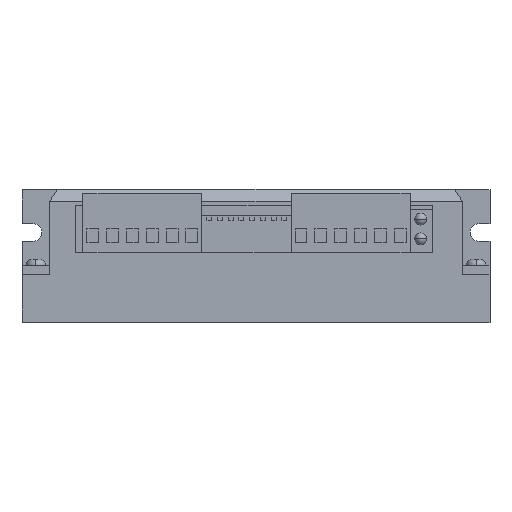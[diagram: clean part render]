
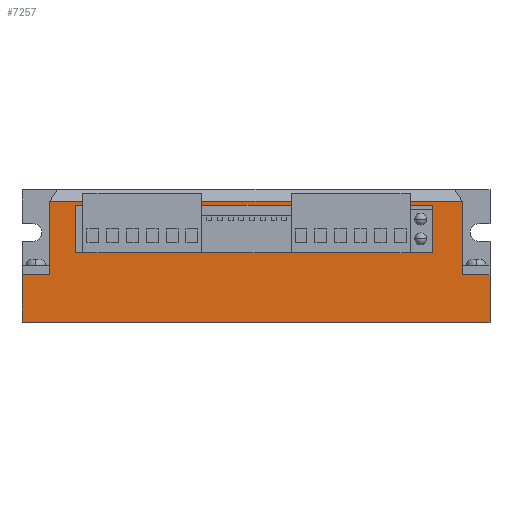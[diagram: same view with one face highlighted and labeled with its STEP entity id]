
A CAD part, top view. The second image highlights one B-rep face of the part: STEP entity #7257.
In plain terms, the highlighted planar face has unit normal (0, 0, 1).
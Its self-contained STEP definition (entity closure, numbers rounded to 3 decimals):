
#16 = VERTEX_POINT ( 'NONE', #6161 ) ;
#123 = EDGE_CURVE ( 'NONE', #292, #8070, #8921, .T. ) ;
#190 = EDGE_CURVE ( 'NONE', #608, #765, #1116, .T. ) ;
#236 = CARTESIAN_POINT ( 'NONE',  ( 97.85, 17.5, 0. ) ) ;
#292 = VERTEX_POINT ( 'NONE', #8508 ) ;
#396 = LINE ( 'NONE', #456, #7400 ) ;
#456 = CARTESIAN_POINT ( 'NONE',  ( 111., 33.5, 0. ) ) ;
#498 = EDGE_CURVE ( 'NONE', #2774, #5302, #9191, .T. ) ;
#513 = DIRECTION ( 'NONE',  ( 0., 0., -1. ) ) ;
#608 = VERTEX_POINT ( 'NONE', #4127 ) ;
#708 = ORIENTED_EDGE ( 'NONE', *, *, #10944, .F. ) ;
#765 = VERTEX_POINT ( 'NONE', #6991 ) ;
#865 = CARTESIAN_POINT ( 'NONE',  ( 0., 0., 0. ) ) ;
#1003 = VERTEX_POINT ( 'NONE', #6787 ) ;
#1054 = VECTOR ( 'NONE', #3593, 1000. ) ;
#1061 = LINE ( 'NONE', #8239, #5922 ) ;
#1116 = LINE ( 'NONE', #4569, #9134 ) ;
#1158 = VECTOR ( 'NONE', #4386, 1000. ) ;
#1443 = EDGE_CURVE ( 'NONE', #11250, #3250, #3079, .T. ) ;
#1483 = LINE ( 'NONE', #6888, #2408 ) ;
#1824 = VECTOR ( 'NONE', #5610, 1000. ) ;
#2207 = DIRECTION ( 'NONE',  ( -1., 0., 0. ) ) ;
#2260 = CARTESIAN_POINT ( 'NONE',  ( 103.5, 29.5, 0. ) ) ;
#2330 = PLANE ( 'NONE',  #5507 ) ;
#2408 = VECTOR ( 'NONE', #6831, 1000. ) ;
#2654 = EDGE_CURVE ( 'NONE', #1003, #292, #396, .T. ) ;
#2774 = VERTEX_POINT ( 'NONE', #236 ) ;
#2817 = LINE ( 'NONE', #9973, #7818 ) ;
#2829 = ORIENTED_EDGE ( 'NONE', *, *, #5470, .F. ) ;
#2902 = CARTESIAN_POINT ( 'NONE',  ( 13.5, 17.5, 0. ) ) ;
#2932 = CARTESIAN_POINT ( 'NONE',  ( -9., 30.5, 0. ) ) ;
#2957 = CARTESIAN_POINT ( 'NONE',  ( 13.5, 29.5, 0. ) ) ;
#3079 = LINE ( 'NONE', #2260, #4974 ) ;
#3174 = CARTESIAN_POINT ( 'NONE',  ( 67.85, 17.5, 0. ) ) ;
#3177 = ORIENTED_EDGE ( 'NONE', *, *, #123, .F. ) ;
#3195 = VERTEX_POINT ( 'NONE', #4968 ) ;
#3250 = VERTEX_POINT ( 'NONE', #9652 ) ;
#3309 = ORIENTED_EDGE ( 'NONE', *, *, #5681, .T. ) ;
#3322 = FACE_BOUND ( 'NONE', #3435, .T. ) ;
#3435 = EDGE_LOOP ( 'NONE', ( #708, #9221, #5604, #5014, #4826, #10693, #2829, #9152 ) ) ;
#3460 = CARTESIAN_POINT ( 'NONE',  ( 0., 17.5, 0. ) ) ;
#3487 = LINE ( 'NONE', #5307, #5580 ) ;
#3524 = LINE ( 'NONE', #3460, #11186 ) ;
#3593 = DIRECTION ( 'NONE',  ( 0., -1., 0. ) ) ;
#3724 = CARTESIAN_POINT ( 'NONE',  ( 13.5, 17.5, 0. ) ) ;
#3796 = DIRECTION ( 'NONE',  ( 0., 1., 0. ) ) ;
#4114 = CARTESIAN_POINT ( 'NONE',  ( 45.35, 17.5, 0. ) ) ;
#4127 = CARTESIAN_POINT ( 'NONE',  ( 0., 12., 0. ) ) ;
#4296 = EDGE_CURVE ( 'NONE', #608, #6436, #2817, .T. ) ;
#4386 = DIRECTION ( 'NONE',  ( 1., 0., 0. ) ) ;
#4552 = EDGE_CURVE ( 'NONE', #9675, #11455, #3487, .T. ) ;
#4569 = CARTESIAN_POINT ( 'NONE',  ( 0., 33.5, 0. ) ) ;
#4606 = DIRECTION ( 'NONE',  ( 1., 0., 0. ) ) ;
#4614 = CARTESIAN_POINT ( 'NONE',  ( 103.5, 17.5, 0. ) ) ;
#4784 = LINE ( 'NONE', #4614, #10374 ) ;
#4826 = ORIENTED_EDGE ( 'NONE', *, *, #11257, .F. ) ;
#4968 = CARTESIAN_POINT ( 'NONE',  ( 13.5, 17.5, 0. ) ) ;
#4974 = VECTOR ( 'NONE', #2207, 1000. ) ;
#5014 = ORIENTED_EDGE ( 'NONE', *, *, #498, .F. ) ;
#5167 = DIRECTION ( 'NONE',  ( 1., 0., 0. ) ) ;
#5212 = ORIENTED_EDGE ( 'NONE', *, *, #6736, .F. ) ;
#5302 = VERTEX_POINT ( 'NONE', #7042 ) ;
#5307 = CARTESIAN_POINT ( 'NONE',  ( 13.5, 17.5, 0. ) ) ;
#5470 = EDGE_CURVE ( 'NONE', #10231, #9675, #1061, .T. ) ;
#5507 = AXIS2_PLACEMENT_3D ( 'NONE', #11366, #513, #5913 ) ;
#5580 = VECTOR ( 'NONE', #10005, 1000. ) ;
#5604 = ORIENTED_EDGE ( 'NONE', *, *, #7500, .F. ) ;
#5610 = DIRECTION ( 'NONE',  ( 1., 0., 0. ) ) ;
#5681 = EDGE_CURVE ( 'NONE', #765, #11114, #8977, .T. ) ;
#5687 = DIRECTION ( 'NONE',  ( 0., -1., 0. ) ) ;
#5735 = EDGE_LOOP ( 'NONE', ( #7328, #5212, #10203, #11396, #9280, #3309, #10017, #3177 ) ) ;
#5913 = DIRECTION ( 'NONE',  ( -1., 0., 0. ) ) ;
#5922 = VECTOR ( 'NONE', #10093, 1000. ) ;
#6039 = CARTESIAN_POINT ( 'NONE',  ( 118., 12., 0. ) ) ;
#6161 = CARTESIAN_POINT ( 'NONE',  ( 7., 30.5, 0. ) ) ;
#6254 = VECTOR ( 'NONE', #3796, 1000. ) ;
#6409 = DIRECTION ( 'NONE',  ( 1., 0., 0. ) ) ;
#6436 = VERTEX_POINT ( 'NONE', #10506 ) ;
#6452 = LINE ( 'NONE', #9094, #6254 ) ;
#6595 = CARTESIAN_POINT ( 'NONE',  ( 118., 0., 0. ) ) ;
#6691 = VECTOR ( 'NONE', #10027, 1000. ) ;
#6736 = EDGE_CURVE ( 'NONE', #16, #1003, #9218, .T. ) ;
#6787 = CARTESIAN_POINT ( 'NONE',  ( 111., 30.5, 0. ) ) ;
#6831 = DIRECTION ( 'NONE',  ( 0., -1., 0. ) ) ;
#6888 = CARTESIAN_POINT ( 'NONE',  ( 118., 33.5, 0. ) ) ;
#6991 = CARTESIAN_POINT ( 'NONE',  ( 0., 0., 0. ) ) ;
#7042 = CARTESIAN_POINT ( 'NONE',  ( 103.5, 17.5, 0. ) ) ;
#7100 = EDGE_CURVE ( 'NONE', #6436, #16, #6452, .T. ) ;
#7257 = ADVANCED_FACE ( 'NONE', ( #3322, #9599 ), #2330, .F. ) ;
#7328 = ORIENTED_EDGE ( 'NONE', *, *, #2654, .F. ) ;
#7400 = VECTOR ( 'NONE', #11080, 1000. ) ;
#7429 = CARTESIAN_POINT ( 'NONE',  ( 15.35, 17.5, 0. ) ) ;
#7500 = EDGE_CURVE ( 'NONE', #5302, #11250, #4784, .T. ) ;
#7818 = VECTOR ( 'NONE', #6409, 1000. ) ;
#8070 = VERTEX_POINT ( 'NONE', #6039 ) ;
#8239 = CARTESIAN_POINT ( 'NONE',  ( 13.5, 17.5, 0. ) ) ;
#8381 = DIRECTION ( 'NONE',  ( 0., 1., 0. ) ) ;
#8508 = CARTESIAN_POINT ( 'NONE',  ( 111., 12., 0. ) ) ;
#8921 = LINE ( 'NONE', #10859, #6691 ) ;
#8977 = LINE ( 'NONE', #865, #1158 ) ;
#9094 = CARTESIAN_POINT ( 'NONE',  ( 7., 33.5, 0. ) ) ;
#9134 = VECTOR ( 'NONE', #5687, 1000. ) ;
#9152 = ORIENTED_EDGE ( 'NONE', *, *, #10198, .F. ) ;
#9191 = LINE ( 'NONE', #2902, #10934 ) ;
#9218 = LINE ( 'NONE', #2932, #10929 ) ;
#9221 = ORIENTED_EDGE ( 'NONE', *, *, #1443, .F. ) ;
#9240 = LINE ( 'NONE', #3724, #1824 ) ;
#9273 = EDGE_CURVE ( 'NONE', #8070, #11114, #1483, .T. ) ;
#9280 = ORIENTED_EDGE ( 'NONE', *, *, #190, .T. ) ;
#9599 = FACE_OUTER_BOUND ( 'NONE', #5735, .T. ) ;
#9652 = CARTESIAN_POINT ( 'NONE',  ( 13.5, 29.5, 0. ) ) ;
#9675 = VERTEX_POINT ( 'NONE', #4114 ) ;
#9973 = CARTESIAN_POINT ( 'NONE',  ( 0., 12., 0. ) ) ;
#10005 = DIRECTION ( 'NONE',  ( 1., 0., 0. ) ) ;
#10017 = ORIENTED_EDGE ( 'NONE', *, *, #9273, .F. ) ;
#10027 = DIRECTION ( 'NONE',  ( 1., 0., 0. ) ) ;
#10093 = DIRECTION ( 'NONE',  ( 1., 0., 0. ) ) ;
#10198 = EDGE_CURVE ( 'NONE', #3195, #10231, #9240, .T. ) ;
#10203 = ORIENTED_EDGE ( 'NONE', *, *, #7100, .F. ) ;
#10231 = VERTEX_POINT ( 'NONE', #7429 ) ;
#10374 = VECTOR ( 'NONE', #8381, 1000. ) ;
#10506 = CARTESIAN_POINT ( 'NONE',  ( 7., 12., 0. ) ) ;
#10563 = CARTESIAN_POINT ( 'NONE',  ( 103.5, 29.5, 0. ) ) ;
#10693 = ORIENTED_EDGE ( 'NONE', *, *, #4552, .F. ) ;
#10823 = LINE ( 'NONE', #2957, #1054 ) ;
#10859 = CARTESIAN_POINT ( 'NONE',  ( 118., 12., 0. ) ) ;
#10929 = VECTOR ( 'NONE', #10977, 1000. ) ;
#10934 = VECTOR ( 'NONE', #4606, 1000. ) ;
#10944 = EDGE_CURVE ( 'NONE', #3250, #3195, #10823, .T. ) ;
#10977 = DIRECTION ( 'NONE',  ( 1., 0., 0. ) ) ;
#11080 = DIRECTION ( 'NONE',  ( 0., -1., 0. ) ) ;
#11114 = VERTEX_POINT ( 'NONE', #6595 ) ;
#11186 = VECTOR ( 'NONE', #5167, 1000. ) ;
#11250 = VERTEX_POINT ( 'NONE', #10563 ) ;
#11257 = EDGE_CURVE ( 'NONE', #11455, #2774, #3524, .T. ) ;
#11366 = CARTESIAN_POINT ( 'NONE',  ( 0., 33.5, 0. ) ) ;
#11396 = ORIENTED_EDGE ( 'NONE', *, *, #4296, .F. ) ;
#11455 = VERTEX_POINT ( 'NONE', #3174 ) ;
